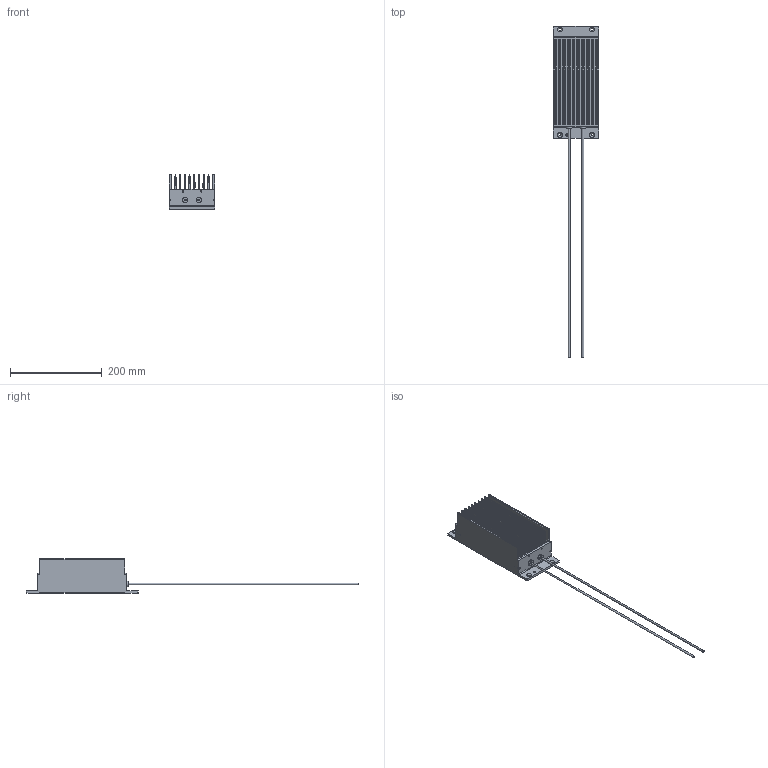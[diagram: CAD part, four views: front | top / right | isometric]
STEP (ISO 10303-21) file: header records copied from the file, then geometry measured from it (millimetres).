
FILE_DESCRIPTION(/* description */ (''),/* implementation_level */ '2;1');
FILE_NAME(/* name */ 'C:\_Vault\Dati\CATALOGO\RDF\RDF750.stp',/* time_stamp */ '2014-03-22T11:21:26+01:00',/* author */ ('andreac'),/* organization */ (''),/* preprocessor_version */ 'ST-DEVELOPER v15.2',/* originating_system */ 'Autodesk Inventor 2014',/* authorisation */ '');
FILE_SCHEMA (('AUTOMOTIVE_DESIGN { 1 0 10303 214 3 1 1 }'));
Length unit declared in the file: millimetre
Products named in the file (1): RDF750
Bounding box: 100 x 724 x 75 mm (x, y, z)
Volume: 554577.9 mm3; surface area: 276484 mm2
Topology: 3 solids, 3 shells, 1233 faces, 3624 edges, 2417 vertices
Faces by surface type: plane 1138, cylinder 83, cone 12
Full cylindrical faces by diameter (mm): 2.65 x8, 3.2 x8, 4 x2, 4.917 x1, 5.5 x4, 12 x2, 12.5 x2
Entity records: 41187 total; most frequent: CARTESIAN_POINT 7190, ORIENTED_EDGE 7124, DIRECTION 6200, EDGE_CURVE 3562, LINE 3392, VECTOR 3392, VERTEX_POINT 2394, AXIS2_PLACEMENT_3D 1404
